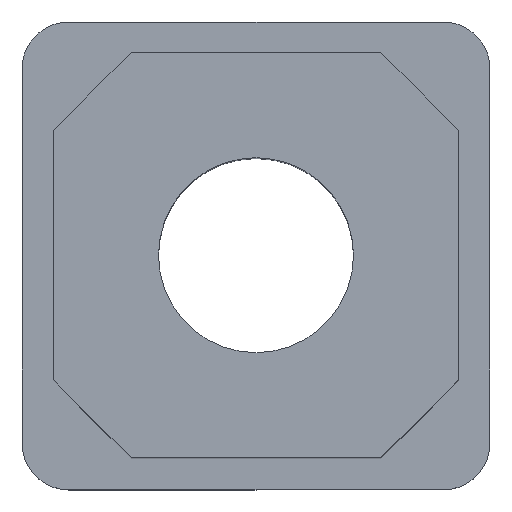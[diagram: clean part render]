
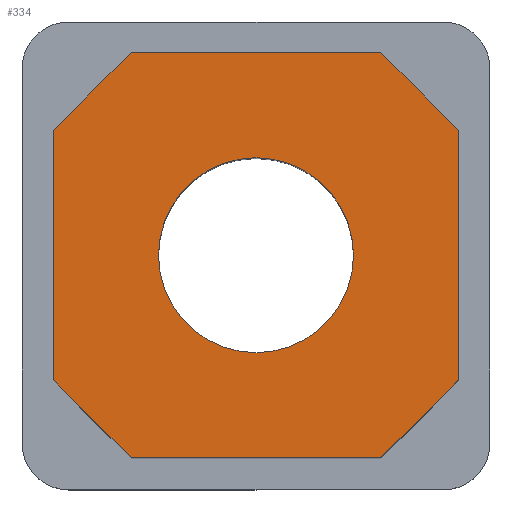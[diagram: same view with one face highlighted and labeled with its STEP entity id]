
A CAD part, top view. The second image highlights one B-rep face of the part: STEP entity #334.
In plain terms, the highlighted planar face has unit normal (0, 0, 1).
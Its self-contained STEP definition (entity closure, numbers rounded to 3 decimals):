
#12 = ORIENTED_EDGE ( 'NONE', *, *, #386, .T. ) ;
#15 = FACE_BOUND ( 'NONE', #614, .T. ) ;
#29 = VECTOR ( 'NONE', #369, 1000. ) ;
#40 = LINE ( 'NONE', #524, #88 ) ;
#44 = DIRECTION ( 'NONE',  ( -0.707, -0.707, 0. ) ) ;
#75 = DIRECTION ( 'NONE',  ( -0.707, 0.707, 0. ) ) ;
#81 = VERTEX_POINT ( 'NONE', #567 ) ;
#87 = VECTOR ( 'NONE', #254, 1000. ) ;
#88 = VECTOR ( 'NONE', #75, 1000. ) ;
#89 = DIRECTION ( 'NONE',  ( 1., 0., 0. ) ) ;
#91 = DIRECTION ( 'NONE',  ( 0.707, -0.707, 0. ) ) ;
#103 = CARTESIAN_POINT ( 'NONE',  ( -23.5, 2.5, 33. ) ) ;
#109 = CARTESIAN_POINT ( 'NONE',  ( -13., 13., 33. ) ) ;
#119 = DIRECTION ( 'NONE',  ( 0., 0., 1. ) ) ;
#128 = VECTOR ( 'NONE', #44, 1000. ) ;
#138 = EDGE_CURVE ( 'NONE', #593, #599, #273, .T. ) ;
#141 = ORIENTED_EDGE ( 'NONE', *, *, #635, .T. ) ;
#143 = CARTESIAN_POINT ( 'NONE',  ( -13., -8., 33. ) ) ;
#144 = VERTEX_POINT ( 'NONE', #325 ) ;
#148 = CARTESIAN_POINT ( 'NONE',  ( 8., 13., 33. ) ) ;
#163 = FACE_OUTER_BOUND ( 'NONE', #361, .T. ) ;
#170 = LINE ( 'NONE', #478, #29 ) ;
#184 = CARTESIAN_POINT ( 'NONE',  ( 0., 0., 33. ) ) ;
#218 = ORIENTED_EDGE ( 'NONE', *, *, #564, .T. ) ;
#226 = CARTESIAN_POINT ( 'NONE',  ( -13., -13., 33. ) ) ;
#248 = CARTESIAN_POINT ( 'NONE',  ( -10.5, 10.5, 33. ) ) ;
#254 = DIRECTION ( 'NONE',  ( -1., 0., 0. ) ) ;
#261 = VERTEX_POINT ( 'NONE', #143 ) ;
#263 = PLANE ( 'NONE',  #392 ) ;
#272 = CARTESIAN_POINT ( 'NONE',  ( -8., 13., 33. ) ) ;
#273 = LINE ( 'NONE', #226, #608 ) ;
#286 = CARTESIAN_POINT ( 'NONE',  ( -8., -13., 33. ) ) ;
#292 = EDGE_CURVE ( 'NONE', #295, #261, #431, .T. ) ;
#295 = VERTEX_POINT ( 'NONE', #493 ) ;
#296 = DIRECTION ( 'NONE',  ( 0., 1., 0. ) ) ;
#305 = VERTEX_POINT ( 'NONE', #148 ) ;
#325 = CARTESIAN_POINT ( 'NONE',  ( 13., 8., 33. ) ) ;
#333 = VECTOR ( 'NONE', #296, 1000. ) ;
#334 = ADVANCED_FACE ( 'NONE', ( #15, #163 ), #263, .T. ) ;
#346 = ORIENTED_EDGE ( 'NONE', *, *, #527, .T. ) ;
#347 = CARTESIAN_POINT ( 'NONE',  ( 8., -13., 33. ) ) ;
#351 = CARTESIAN_POINT ( 'NONE',  ( 13., 13., 33. ) ) ;
#361 = EDGE_LOOP ( 'NONE', ( #611, #506, #549, #346, #12, #218, #595, #141 ) ) ;
#369 = DIRECTION ( 'NONE',  ( 0.707, 0.707, 0. ) ) ;
#379 = VERTEX_POINT ( 'NONE', #632 ) ;
#383 = LINE ( 'NONE', #248, #128 ) ;
#384 = CARTESIAN_POINT ( 'NONE',  ( -13., 13., 33. ) ) ;
#386 = EDGE_CURVE ( 'NONE', #305, #448, #409, .T. ) ;
#392 = AXIS2_PLACEMENT_3D ( 'NONE', #109, #119, #503 ) ;
#394 = LINE ( 'NONE', #103, #578 ) ;
#403 = CIRCLE ( 'NONE', #465, 6.25 ) ;
#409 = LINE ( 'NONE', #351, #87 ) ;
#418 = DIRECTION ( 'NONE',  ( 1., 0., 0. ) ) ;
#431 = LINE ( 'NONE', #384, #475 ) ;
#432 = EDGE_CURVE ( 'NONE', #599, #81, #170, .T. ) ;
#442 = LINE ( 'NONE', #483, #333 ) ;
#447 = DIRECTION ( 'NONE',  ( 0., -1., 0. ) ) ;
#448 = VERTEX_POINT ( 'NONE', #272 ) ;
#465 = AXIS2_PLACEMENT_3D ( 'NONE', #184, #562, #89 ) ;
#471 = EDGE_CURVE ( 'NONE', #379, #379, #403, .T. ) ;
#475 = VECTOR ( 'NONE', #447, 1000. ) ;
#478 = CARTESIAN_POINT ( 'NONE',  ( 10.5, -10.5, 33. ) ) ;
#483 = CARTESIAN_POINT ( 'NONE',  ( 13., -13., 33. ) ) ;
#493 = CARTESIAN_POINT ( 'NONE',  ( -13., 8., 33. ) ) ;
#503 = DIRECTION ( 'NONE',  ( 1., 0., 0. ) ) ;
#506 = ORIENTED_EDGE ( 'NONE', *, *, #432, .T. ) ;
#524 = CARTESIAN_POINT ( 'NONE',  ( -2.5, 23.5, 33. ) ) ;
#527 = EDGE_CURVE ( 'NONE', #144, #305, #40, .T. ) ;
#549 = ORIENTED_EDGE ( 'NONE', *, *, #613, .T. ) ;
#562 = DIRECTION ( 'NONE',  ( 0., 0., 1. ) ) ;
#564 = EDGE_CURVE ( 'NONE', #448, #295, #383, .T. ) ;
#567 = CARTESIAN_POINT ( 'NONE',  ( 13., -8., 33. ) ) ;
#578 = VECTOR ( 'NONE', #91, 1000. ) ;
#593 = VERTEX_POINT ( 'NONE', #286 ) ;
#595 = ORIENTED_EDGE ( 'NONE', *, *, #292, .T. ) ;
#599 = VERTEX_POINT ( 'NONE', #347 ) ;
#608 = VECTOR ( 'NONE', #418, 1000. ) ;
#611 = ORIENTED_EDGE ( 'NONE', *, *, #138, .T. ) ;
#613 = EDGE_CURVE ( 'NONE', #81, #144, #442, .T. ) ;
#614 = EDGE_LOOP ( 'NONE', ( #621 ) ) ;
#621 = ORIENTED_EDGE ( 'NONE', *, *, #471, .F. ) ;
#632 = CARTESIAN_POINT ( 'NONE',  ( 6.25, 0., 33. ) ) ;
#635 = EDGE_CURVE ( 'NONE', #261, #593, #394, .T. ) ;
